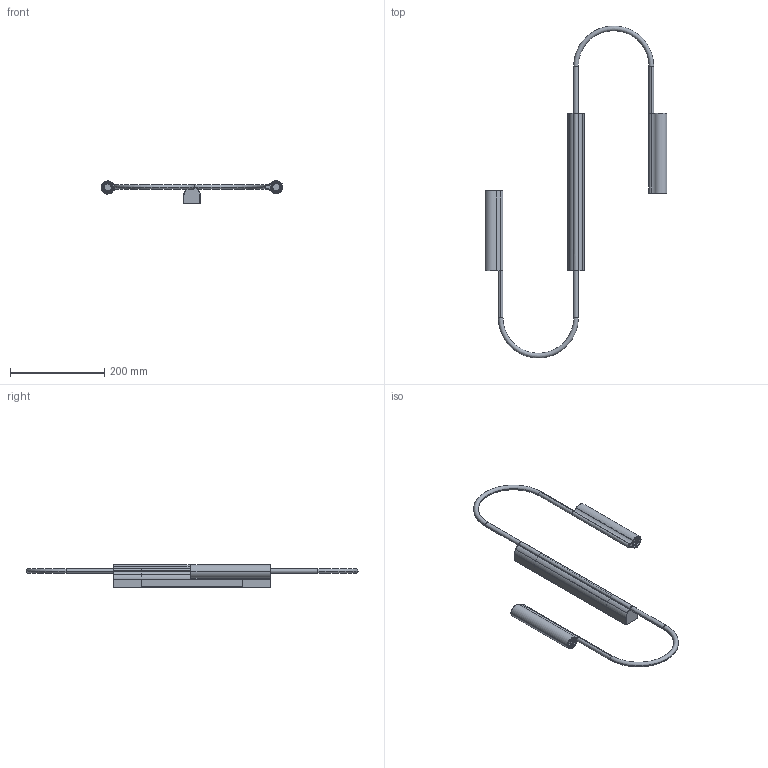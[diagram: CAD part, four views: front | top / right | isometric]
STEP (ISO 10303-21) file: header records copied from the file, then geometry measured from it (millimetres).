
FILE_DESCRIPTION (( 'STEP AP214' ), '1' );
FILE_NAME ('Pop - Wall Sconce.STEP', '2024-04-08T05:53:51', ( '' ), ( '' ), 'SwSTEP 2.0', 'SolidWorks 2017', '' );
FILE_SCHEMA (( 'AUTOMOTIVE_DESIGN' ));
Length unit declared in the file: millimetre
Products named in the file (1): Pop - Wall Sconce
Bounding box: 385.95 x 705 x 48.51 mm (x, y, z)
Volume: 409151.7 mm3; surface area: 223732.9 mm2
Topology: 11 solids, 12 shells, 225 faces, 483 edges, 294 vertices
Faces by surface type: cylinder 79, torus 54, plane 42, bspline 26, cone 24
Entity records: 11227 total; most frequent: CARTESIAN_POINT 3724, DIRECTION 1089, ORIENTED_EDGE 966, AXIS2_PLACEMENT_3D 486, EDGE_CURVE 483, VERTEX_POINT 294, CIRCLE 286, EDGE_LOOP 245
